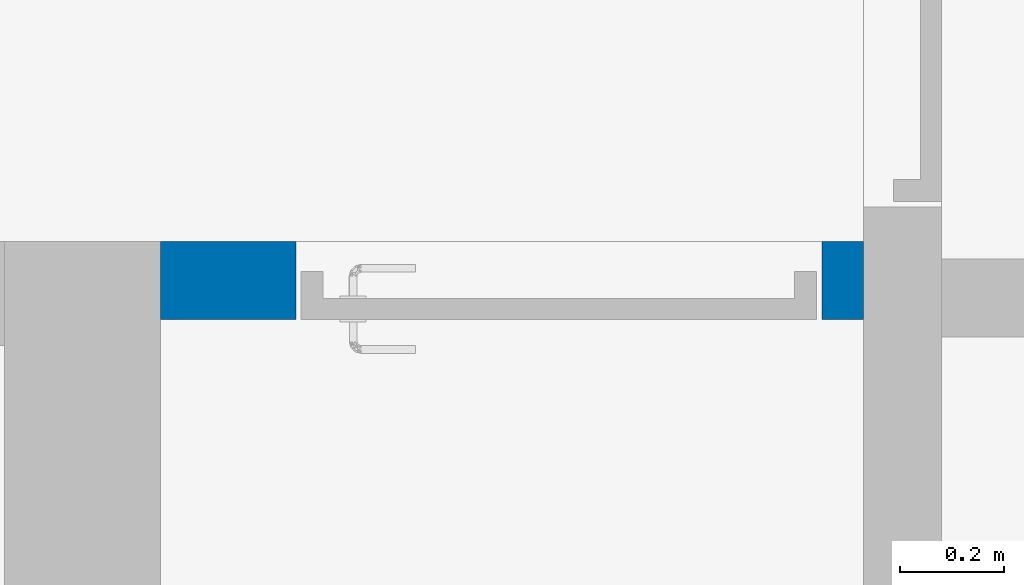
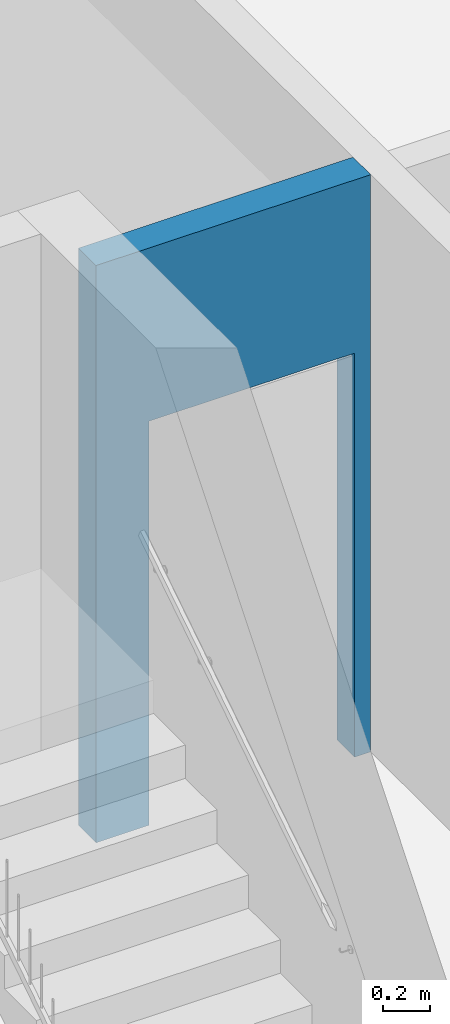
# One storey, part 32 of 58: 1 wall, 1 opening.
"""IFC2X3 building model written with IfcOpenShell, lengths in millimetres."""

from ifc_helpers import new_model, entity, si_unit, converted_unit, derived_unit, direction, frame, frame_2d, origin, place, context, subcontext, project, spatial, rectangle, extrude, material, layer, layer_set, layer_usage, type_object, element, save


model = new_model("IFC2X3")

# Units and contexts
model_context = context("Model", 3, precision=0.01, world=origin(), true_north=direction((0.7716245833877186, 0.6360782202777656)))
body_context = subcontext(model_context, "Body", "Model", "MODEL_VIEW")
ifc_project = project(units=[si_unit("LENGTHUNIT", "METRE", prefix="MILLI"), si_unit("AREAUNIT", "SQUARE_METRE"), converted_unit("PLANEANGLEUNIT", "DEGREE", entity("IfcPlaneAngleMeasure", 0.017453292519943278), si_unit("PLANEANGLEUNIT", "RADIAN"), dimensions=[0, 0, 0, 0, 0, 0, 0]), derived_unit("THERMALTRANSMITTANCEUNIT", [(si_unit("MASSUNIT", "GRAM", prefix="KILO"), 1), (si_unit("THERMODYNAMICTEMPERATUREUNIT", "KELVIN"), -1), (si_unit("TIMEUNIT", "SECOND"), -3)])], contexts=[model_context])

# Site, building, storey
site_placement = place(None, origin())
site = spatial("IfcSite", under=ifc_project, at=site_placement, Name="Default", CompositionType="ELEMENT")
building_placement = place(site_placement, origin())
building = spatial("IfcBuilding", under=site, at=building_placement, CompositionType="ELEMENT")
storey_placement = place(building_placement, frame((0.0, 0.0, 31140.0)))
storey = spatial("IfcBuildingStorey", under=building, at=storey_placement, Name="PLAN U1", CompositionType="ELEMENT", Elevation=31140.000000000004)

# Wall, opening
ifc_material_1 = material(Name="Gips")
ifc_layer_1 = layer(ifc_material_1, 12.5)
ifc_layer_2 = layer(ifc_material_1, 12.5)
ifc_material_2 = material(Name="Stender isolert")
ifc_layer_3 = layer(ifc_material_2, 100.0)
ifc_layer_4 = layer(ifc_material_1, 12.5)
ifc_layer_5 = layer(ifc_material_1, 12.5)
ifc_layer_set = layer_set([ifc_layer_1, ifc_layer_2, ifc_layer_3, ifc_layer_4, ifc_layer_5], Name="Basic Wall:242 IV01 Innervegg 150 mm")
ifc_layer_usage = layer_usage(ifc_layer_set, "AXIS2", "NEGATIVE", 75.0)
wall_type = type_object("IfcWallType", Name="Basic Wall:242 IV01 Innervegg 150 mm", PredefinedType="STANDARD", material=ifc_layer_set)
wall_placement = place(storey_placement, frame((272267.924446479, 62679.50163955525, 0.0), z_axis=(0.0, 0.0, 1.0), x_axis=(-1.0, 0.0, 0.0)))
wall = element("IfcWallStandardCase", 1, at=wall_placement, inside=storey, type_object=wall_type, material=ifc_layer_usage, Name="Basic Wall:242 IV01 Innervegg 150 mm", ObjectType="Basic Wall:242 IV01 Innervegg 150 mm", context=body_context, shape_type="SweptSolid", body=[
    extrude(rectangle(XDim=1350.0000000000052, YDim=150.00000000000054, at=frame_2d((675.0000000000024, 1.0089706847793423e-12), x_axis=(1.0, 0.0))), origin(), (0.0, 0.0, 1.0), 2999.9999999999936),
])
opening_placement = place(wall_placement, frame((80.0, -75.0, 0.0)))
element("IfcOpeningElement", 2, at=opening_placement, cuts=wall, Name="Enfløyet:244 Innvendig AAa 10x21M - Tett:1", ObjectType="Opening", context=body_context, shape_type="SweptSolid", body=[
    extrude(rectangle(XDim=2100.0, YDim=1009.9999999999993, at=frame_2d((1049.9999999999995, 505.0000000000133), x_axis=(1.0, 0.0))), frame((0.0, 0.0, 0.0), z_axis=(0.0, 1.0, 0.0), x_axis=(0.0, 0.0, 1.0)), (0.0, 0.0, 1.0), 150.0),
])

save(model, "model.ifc")
